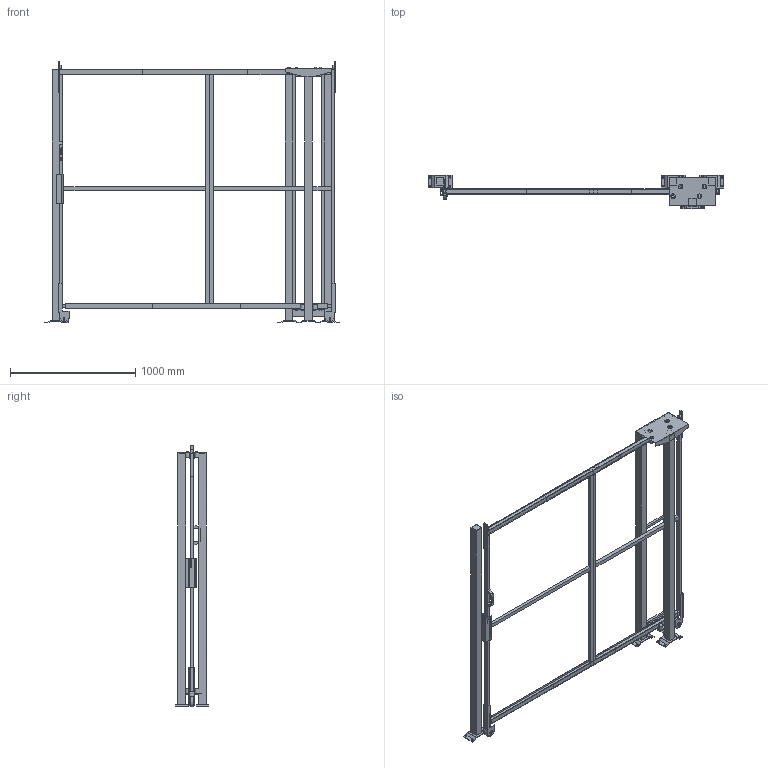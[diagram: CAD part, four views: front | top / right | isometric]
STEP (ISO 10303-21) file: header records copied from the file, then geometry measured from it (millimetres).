
FILE_DESCRIPTION(/* description */ (''),/* implementation_level */ '2;1');
FILE_NAME(/* name */ 'C:\SafeGuarding\ELABORATI\KLADKA_2025-03-19-10-33-25.stp',/* time_stamp */ '2025-03-19T10:33:27+01:00',/* author */ ('admin'),/* organization */ (''),/* preprocessor_version */ 'ST-DEVELOPER v18.1',/* originating_system */ 'AutoCAD Mechanical',/* authorisation */ '');
FILE_SCHEMA (('AUTOMOTIVE_DESIGN { 1 0 10303 214 3 1 1 }','TECHNICAL_DATA_PACKAGING'));
Length unit declared in the file: millimetre
Products named in the file (5): Product; R_VFPA.REPE30.10001900; R_VFPA.REPE30.12001900; R_VFPA.REPE20.02501900; P_VFMA.V260SDU.2020
Assembly tree (7 placements, depth 2):
  Product
    R_VFPA.REPE30.10001900
    R_VFPA.REPE30.12001900
    R_VFPA.REPE20.02501900
    P_VFMA.V260SDU.2020  x4
Bounding box: 2362.02 x 264.1 x 2090.02 mm (x, y, z)
Volume: 46660054.2 mm3; surface area: 6352003.9 mm2
Topology: 61 solids, 72 shells, 555 faces, 1703 edges, 1708 vertices
Faces by surface type: plane 503, cylinder 50, sphere 2
Full cylindrical faces by diameter (mm): 9 x4, 11 x16, 13 x4, 30 x6, 36 x8, 80 x2
Entity records: 15993 total; most frequent: CARTESIAN_POINT 3428, DIRECTION 2427, ORIENTED_EDGE 2202, LINE 1185, VECTOR 1185, EDGE_CURVE 1150, VERTEX_POINT 806, AXIS2_PLACEMENT_3D 621
